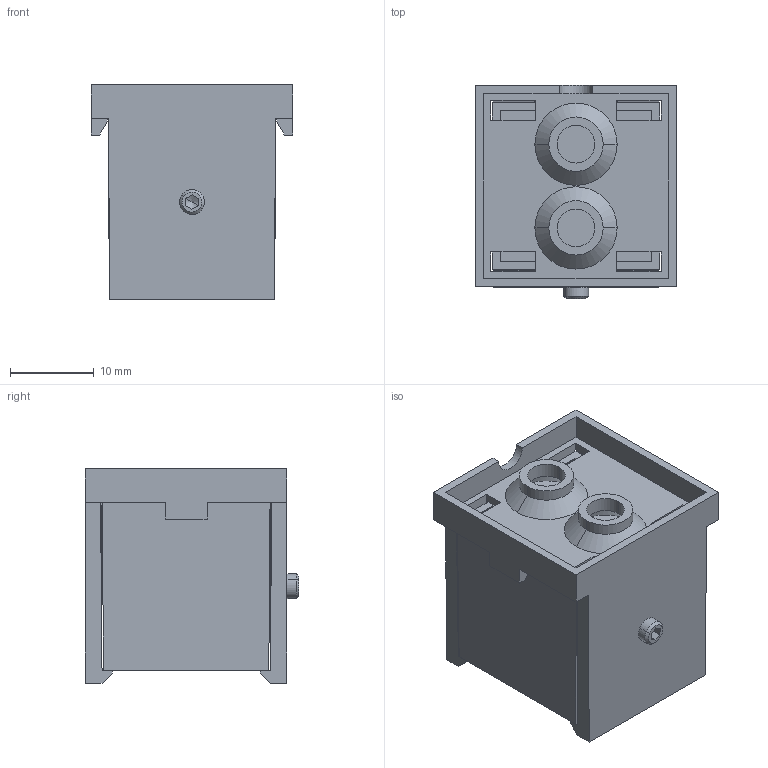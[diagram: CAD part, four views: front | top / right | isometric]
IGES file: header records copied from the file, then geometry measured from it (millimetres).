
Global section: file name: No Iges File Name specified; native system: Autodesk Inventor 2010; preprocessor: AutoDesk Inventor Iges Exporter R2010; author: pschmucki; date: 20110829.112451; units: millimetre
Bounding box: 24.1 x 25.5 x 25.6 mm (x, y, z)
Volume: 10446.1 mm3; surface area: 6330.5 mm2
Topology: 1 solids, 1 shells, 163 faces, 452 edges, 289 vertices
Faces by surface type: plane 108, bspline 40, revolution 7, cylinder 6, cone 2
